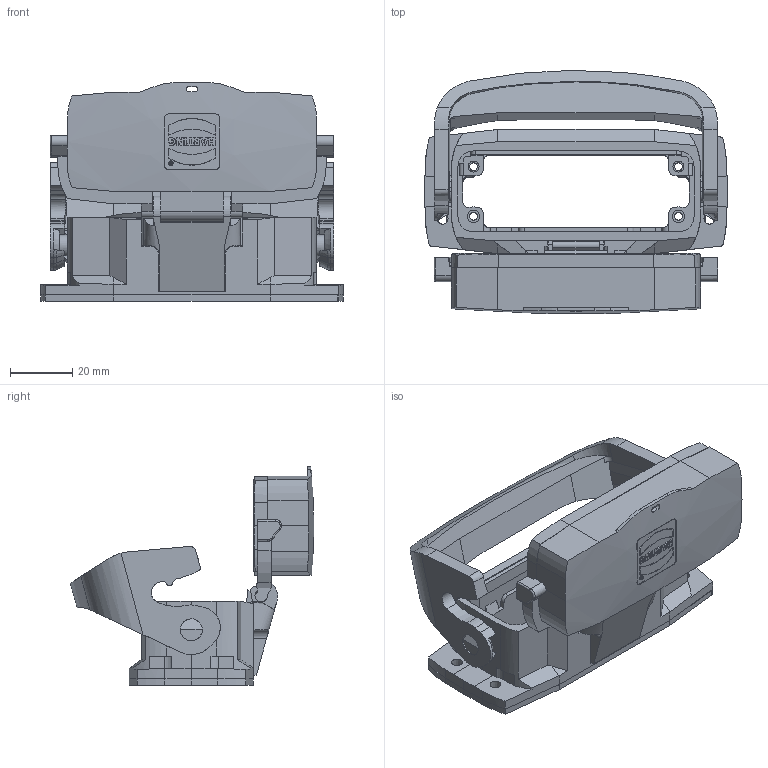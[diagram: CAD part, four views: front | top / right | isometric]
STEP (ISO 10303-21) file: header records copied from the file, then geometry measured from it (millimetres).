
FILE_DESCRIPTION(/* description */ (''),/* implementation_level */ '2;1');
FILE_NAME(/* name */ '100671335ugm000_c.stp',/* time_stamp */ '2022-03-12T01:10:20+01:00',/* author */ (''),/* organization */ (''),/* preprocessor_version */ 'ST-DEVELOPER v16.7',/* originating_system */ 'SIEMENS PLM Software NX 1911',/* authorisation */ '');
FILE_SCHEMA (('AUTOMOTIVE_DESIGN { 1 0 10303 214 3 1 1 1 }'));
Length unit declared in the file: millimetre
Products named in the file (1): 100671335ugm000_c
Bounding box: 97.52 x 78.39 x 70.36 mm (x, y, z)
Volume: 66523.2 mm3; surface area: 43212.5 mm2
Topology: 3 solids, 5 shells, 955 faces, 2703 edges, 1776 vertices
Faces by surface type: plane 655, cylinder 239, torus 19, bspline 18, cone 16, extrusion 8
Full cylindrical faces by diameter (mm): 1.13 x1, 1.479 x1, 2.5 x4, 3.5 x2, 4 x4, 7 x2, 7.15 x2
Entity records: 38891 total; most frequent: CARTESIAN_POINT 7427, ORIENTED_EDGE 5334, DIRECTION 4920, EDGE_CURVE 2667, VECTOR 1898, LINE 1890, VERTEX_POINT 1758, AXIS2_PLACEMENT_3D 1511
